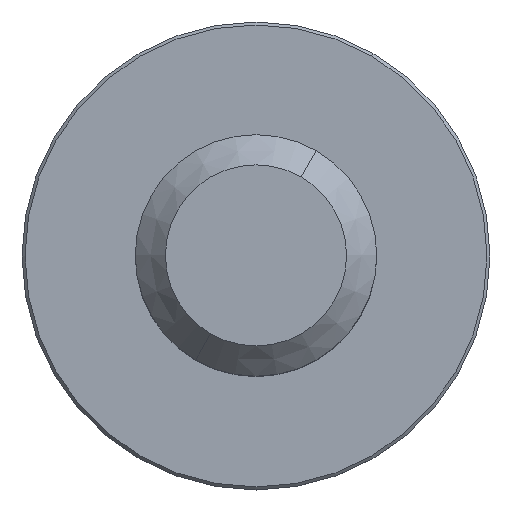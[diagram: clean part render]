
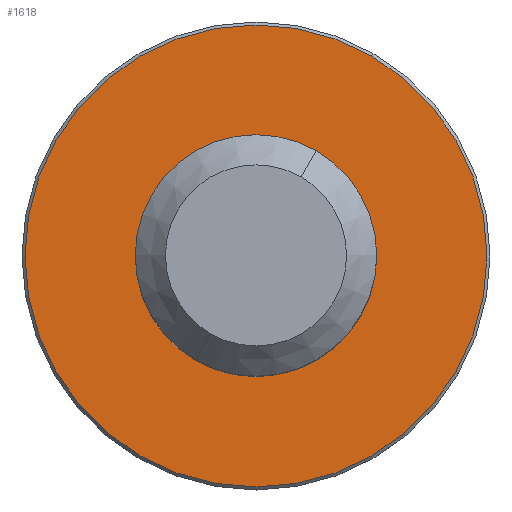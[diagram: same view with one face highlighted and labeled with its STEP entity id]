
A CAD part, top view. The second image highlights one B-rep face of the part: STEP entity #1618.
In plain terms, the highlighted planar face has unit normal (0, 0, 1).
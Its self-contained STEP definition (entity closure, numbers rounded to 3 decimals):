
#57 = ORIENTED_EDGE ( 'NONE', *, *, #1206, .T. ) ;
#147 = PLANE ( 'NONE',  #1310 ) ;
#171 = ORIENTED_EDGE ( 'NONE', *, *, #238, .T. ) ;
#229 = EDGE_CURVE ( 'NONE', #293, #1063, #1390, .T. ) ;
#238 = EDGE_CURVE ( 'NONE', #1732, #1830, #1335, .T. ) ;
#293 = VERTEX_POINT ( 'NONE', #336 ) ;
#296 = DIRECTION ( 'NONE',  ( -0.5, -0.866, 0. ) ) ;
#331 = CARTESIAN_POINT ( 'NONE',  ( 0., 0., 0. ) ) ;
#335 = CARTESIAN_POINT ( 'NONE',  ( 6.928, -4., 0. ) ) ;
#336 = CARTESIAN_POINT ( 'NONE',  ( 3.75, 6.495, 0. ) ) ;
#456 = AXIS2_PLACEMENT_3D ( 'NONE', #1377, #1495, #1085 ) ;
#593 = AXIS2_PLACEMENT_3D ( 'NONE', #1442, #1598, #1287 ) ;
#606 = FACE_OUTER_BOUND ( 'NONE', #727, .T. ) ;
#688 = AXIS2_PLACEMENT_3D ( 'NONE', #830, #1699, #1130 ) ;
#697 = CARTESIAN_POINT ( 'NONE',  ( -3.75, -6.495, 0. ) ) ;
#727 = EDGE_LOOP ( 'NONE', ( #171, #1054 ) ) ;
#784 = CIRCLE ( 'NONE', #593, 7.5 ) ;
#830 = CARTESIAN_POINT ( 'NONE',  ( 0., 0., 0. ) ) ;
#848 = EDGE_LOOP ( 'NONE', ( #57, #936 ) ) ;
#871 = DIRECTION ( 'NONE',  ( 0., 0., 1. ) ) ;
#936 = ORIENTED_EDGE ( 'NONE', *, *, #229, .T. ) ;
#972 = AXIS2_PLACEMENT_3D ( 'NONE', #331, #1786, #296 ) ;
#1054 = ORIENTED_EDGE ( 'NONE', *, *, #1147, .T. ) ;
#1063 = VERTEX_POINT ( 'NONE', #697 ) ;
#1085 = DIRECTION ( 'NONE',  ( -0.5, -0.866, 0. ) ) ;
#1130 = DIRECTION ( 'NONE',  ( -0.5, -0.866, 0. ) ) ;
#1147 = EDGE_CURVE ( 'NONE', #1830, #1732, #1371, .T. ) ;
#1206 = EDGE_CURVE ( 'NONE', #1063, #293, #784, .T. ) ;
#1287 = DIRECTION ( 'NONE',  ( -0.5, -0.866, 0. ) ) ;
#1299 = FACE_BOUND ( 'NONE', #848, .T. ) ;
#1310 = AXIS2_PLACEMENT_3D ( 'NONE', #335, #871, #1471 ) ;
#1335 = CIRCLE ( 'NONE', #456, 15.3 ) ;
#1350 = CARTESIAN_POINT ( 'NONE',  ( 7.65, 13.25, 0. ) ) ;
#1371 = CIRCLE ( 'NONE', #688, 15.3 ) ;
#1377 = CARTESIAN_POINT ( 'NONE',  ( 0., 0., 0. ) ) ;
#1390 = CIRCLE ( 'NONE', #972, 7.5 ) ;
#1442 = CARTESIAN_POINT ( 'NONE',  ( 0., 0., 0. ) ) ;
#1471 = DIRECTION ( 'NONE',  ( -0.5, -0.866, 0. ) ) ;
#1495 = DIRECTION ( 'NONE',  ( 0., 0., 1. ) ) ;
#1598 = DIRECTION ( 'NONE',  ( 0., 0., -1. ) ) ;
#1618 = ADVANCED_FACE ( 'NONE', ( #606, #1299 ), #147, .T. ) ;
#1662 = CARTESIAN_POINT ( 'NONE',  ( -7.65, -13.25, 0. ) ) ;
#1699 = DIRECTION ( 'NONE',  ( 0., 0., 1. ) ) ;
#1732 = VERTEX_POINT ( 'NONE', #1350 ) ;
#1786 = DIRECTION ( 'NONE',  ( 0., 0., -1. ) ) ;
#1830 = VERTEX_POINT ( 'NONE', #1662 ) ;
